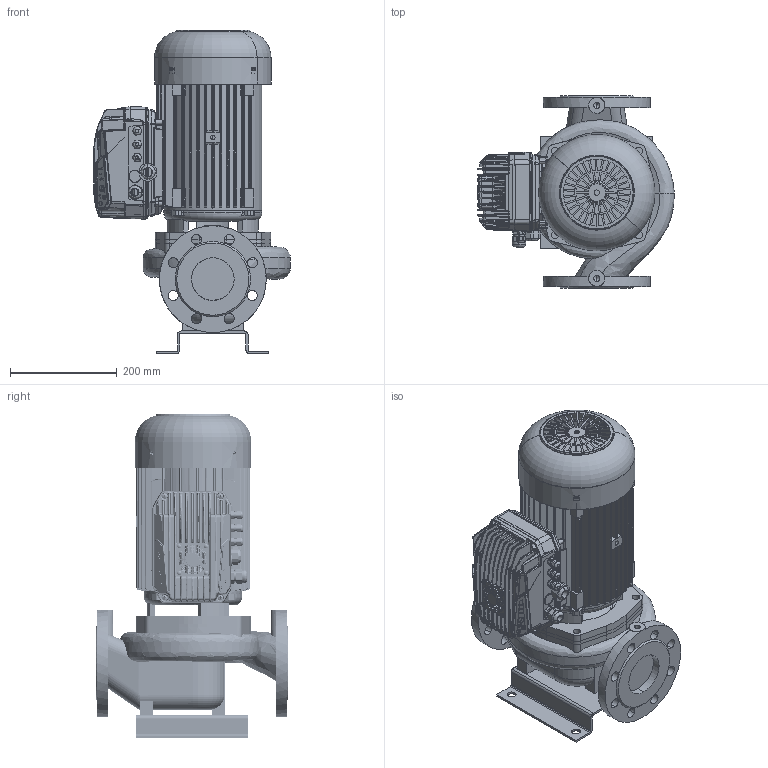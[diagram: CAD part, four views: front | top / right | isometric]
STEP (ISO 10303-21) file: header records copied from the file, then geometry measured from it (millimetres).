
FILE_DESCRIPTION(('STEP AP214'),'1');
FILE_NAME('export.stp','2022-09-07T06:44:22',(' '),(' '),'Spatial InterOp 3D',' ',' ');
FILE_SCHEMA(('AUTOMOTIVE_DESIGN { 1 0 10303 214 1 1 1 1 }'));
Length unit declared in the file: millimetre
Products named in the file (37): W_L80A2_MD_KP112; V_TLL65AB80A1102; V_PPL80A; V_JALKA35973; 440017; 440016; V_MKP112F19; 440015___; 440018; 440021; 480022; 480020; 480023; M25_Blind_Plug; M25_tiivisteholkk; MIDA_180deg; BASE_MIDA_NASTEC_89; 3005020100_AF0_157; PRT0001; PRT0002; PRT0003; PRT0005; PRT0006; PRT0007; V4-25--_-_U7687_PZ_AF0_5; V4-25--_-_U7687_PZ_AF1_5; V4-25--_-_U7687_PZ_AF2_5; V4-25--_-_U7687_PZ_AF3_5; V5-30--_-_U7687_PZ_AF0_5; V5-30--_-_U7687_PZ_AF1_5; V5-30--_-_U7687_PZ_AF2_5; V5-30--_-_U7687_PZ_5; 2001300200_32; TASTIERA_MIDA_2_44; ETICHETTA_MIDA_9; TAPPO_PRESSACAVO_M20_5; Mida205
Assembly tree (36 placements, depth 4):
  W_L80A2_MD_KP112
    V_TLL65AB80A1102
    V_PPL80A
    V_JALKA35973
    V_MKP112F19
      440017
        440016
      440015___
      440018
      440021
      480022
      480020
      480023
      M25_Blind_Plug
      M25_tiivisteholkk
    Mida205
      MIDA_180deg
        BASE_MIDA_NASTEC_89
        3005020100_AF0_157
        PRT0001
        PRT0002
        PRT0003
        PRT0005
        PRT0006
        PRT0007
        V4-25--_-_U7687_PZ_AF0_5
        V4-25--_-_U7687_PZ_AF1_5
        V4-25--_-_U7687_PZ_AF2_5
        V4-25--_-_U7687_PZ_AF3_5
        V5-30--_-_U7687_PZ_AF0_5
        V5-30--_-_U7687_PZ_AF1_5
        V5-30--_-_U7687_PZ_AF2_5
        V5-30--_-_U7687_PZ_5
        2001300200_32
        TASTIERA_MIDA_2_44
        ETICHETTA_MIDA_9
        TAPPO_PRESSACAVO_M20_5
Bounding box: 368 x 360 x 606.2 mm (x, y, z)
Volume: 8871968.4 mm3; surface area: 2045768.8 mm2
Topology: 31 solids, 32 shells, 5460 faces, 14402 edges, 9019 vertices
Faces by surface type: cylinder 2020, plane 1774, bspline 1176, cone 383, torus 107
Entity records: 300346 total; most frequent: CARTESIAN_POINT 135767, ORIENTED_EDGE 28638, DIRECTION 20347, EDGE_CURVE 14323, VERTEX_POINT 9020, AXIS2_PLACEMENT_3D 7388, EDGE_LOOP 5968, LINE 5571
